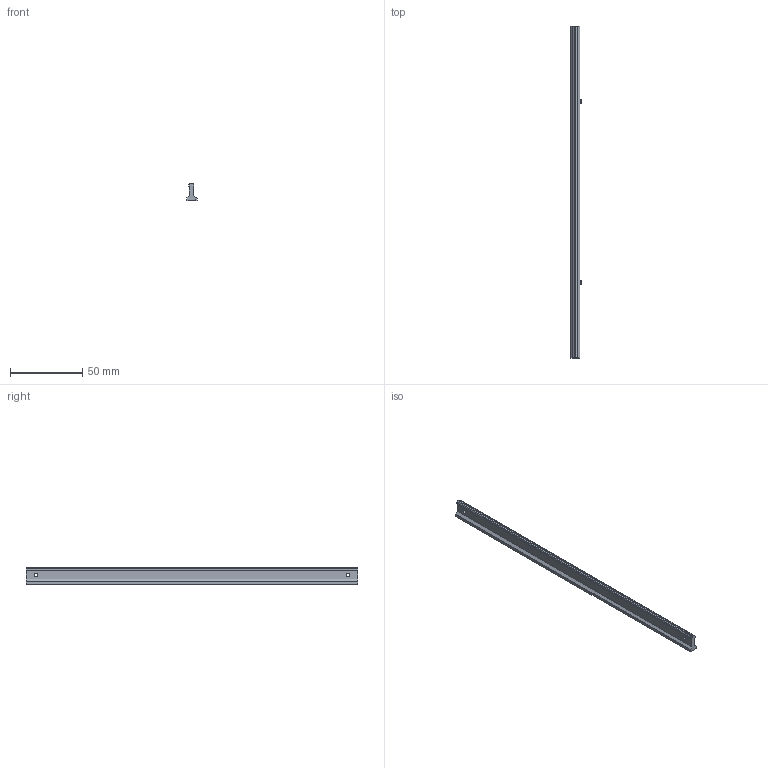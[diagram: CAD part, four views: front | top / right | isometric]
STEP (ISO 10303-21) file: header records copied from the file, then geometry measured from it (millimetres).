
FILE_DESCRIPTION(/* description */ ('Unknown'),/* implementation_level */ '2;1');
FILE_NAME(/* name */ 'vhubbard-display-track-O',/* time_stamp */ '2024-10-03T22:47:14-05:00',/* author */ ('Unknown'),/* organization */ ('Unknown'),/* preprocessor_version */ 'ST-DEVELOPER v18.102',/* originating_system */ 'Solid Edge',/* authorisation */ 'Unknown');
FILE_SCHEMA (('AUTOMOTIVE_DESIGN {1 0 10303 214 3 1 1}'));
Length unit declared in the file: millimetre
Products named in the file (1): vhubbard-display-track-O
Bounding box: 7 x 230 x 12 mm (x, y, z)
Volume: 9764.7 mm3; surface area: 7942 mm2
Topology: 1 solids, 1 shells, 34 faces, 92 edges, 60 vertices
Faces by surface type: plane 28, cylinder 6
Full cylindrical faces by diameter (mm): 2.4 x2
Entity records: 1084 total; most frequent: CARTESIAN_POINT 185, ORIENTED_EDGE 180, DIRECTION 172, EDGE_CURVE 90, LINE 78, VECTOR 78, VERTEX_POINT 60, AXIS2_PLACEMENT_3D 47
